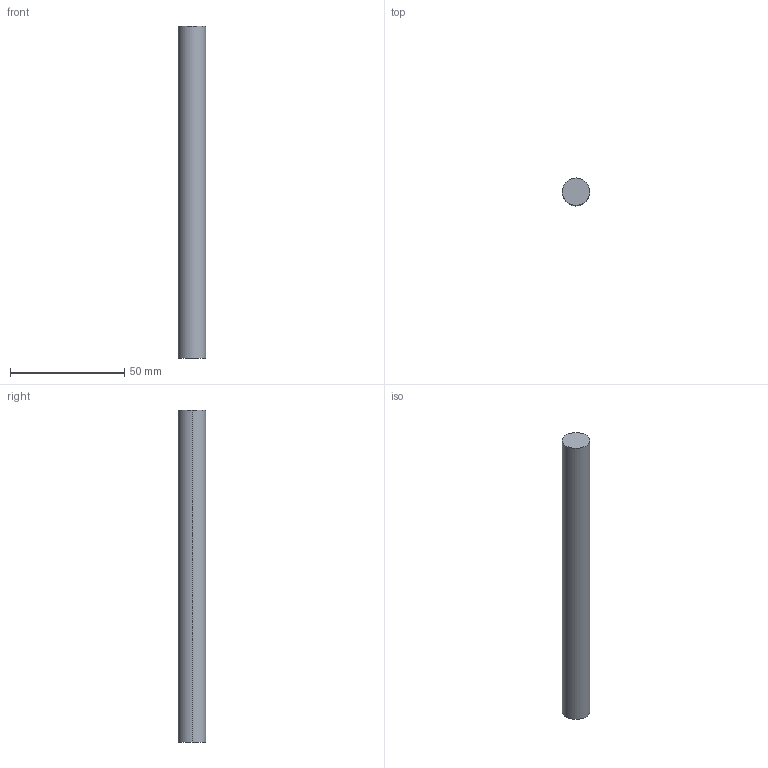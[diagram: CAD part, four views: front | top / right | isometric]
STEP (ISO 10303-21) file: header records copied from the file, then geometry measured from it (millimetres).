
FILE_DESCRIPTION (( 'STEP AP214' ), '1' );
FILE_NAME ('Magic Reling quer - S16_S17 - 250.step', '2010-09-07T14:56:05', ( 'grass' ), ( '' ), 'SwSTEP 2.0', 'SolidWorks 2010', '' );
FILE_SCHEMA (( 'AUTOMOTIVE_DESIGN' ));
Length unit declared in the file: millimetre
Products named in the file (1): Magic Reling quer - S16_S17 - 250
Bounding box: 12 x 12 x 145 mm (x, y, z)
Volume: 16399.1 mm3; surface area: 5692.6 mm2
Topology: 1 solids, 1 shells, 4 faces, 6 edges, 4 vertices
Faces by surface type: cylinder 2, plane 2
Entity records: 128 total; most frequent: DIRECTION 20, CARTESIAN_POINT 15, ORIENTED_EDGE 12, AXIS2_PLACEMENT_3D 9, EDGE_CURVE 6, VERTEX_POINT 4, EDGE_LOOP 4, CIRCLE 4
